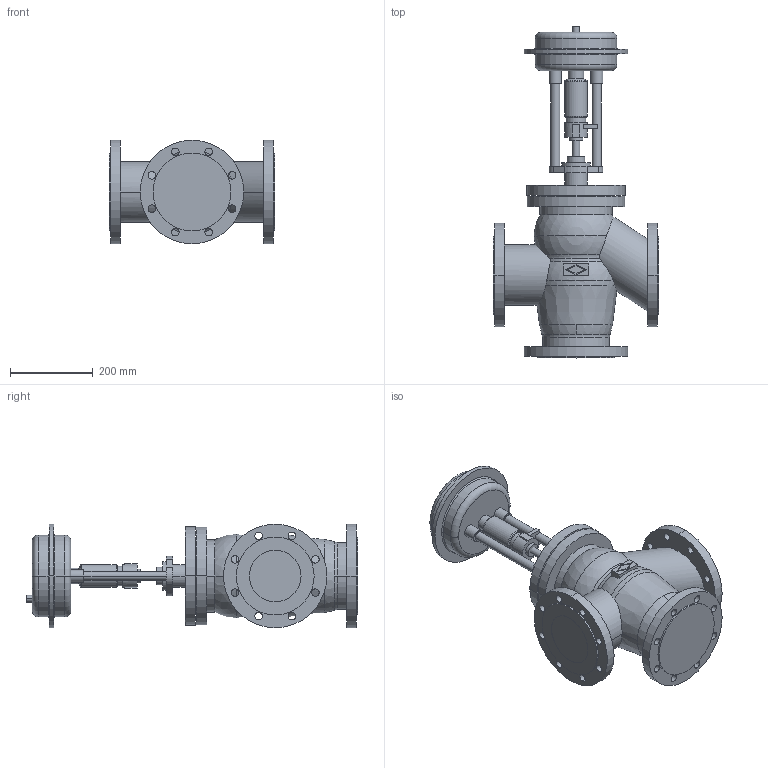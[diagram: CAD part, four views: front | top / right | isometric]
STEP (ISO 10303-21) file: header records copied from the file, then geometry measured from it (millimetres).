
FILE_DESCRIPTION(('OneSpaceDesigner STEP Export'),'2;1');
FILE_NAME('c000000410.stp','2007-01-26T12:32:03',(''),(''),'OneSpace Designer STEP processor for AP214 (Solid Model)','OneSpace Designer 14.00B 27-May-2006 (C) CoCreate Software GmbH','');
FILE_SCHEMA(('AUTOMOTIVE_DESIGN { 1 0 10303 214 1 1 1 1 }'));
Length unit declared in the file: millimetre
Products named in the file (2): 1; 2
Bounding box: 400 x 802 x 250 mm (x, y, z)
Volume: 22031687 mm3; surface area: 966944.3 mm2
Topology: 2 solids, 2 shells, 227 faces, 569 edges, 368 vertices
Faces by surface type: cylinder 116, plane 73, torus 24, sphere 8, cone 6
Entity records: 6150 total; most frequent: CARTESIAN_POINT 1247, ORIENTED_EDGE 1122, DIRECTION 868, EDGE_CURVE 561, VERTEX_POINT 368, AXIS2_PLACEMENT_3D 326, EDGE_LOOP 305, FACE_OUTER_BOUND 227
